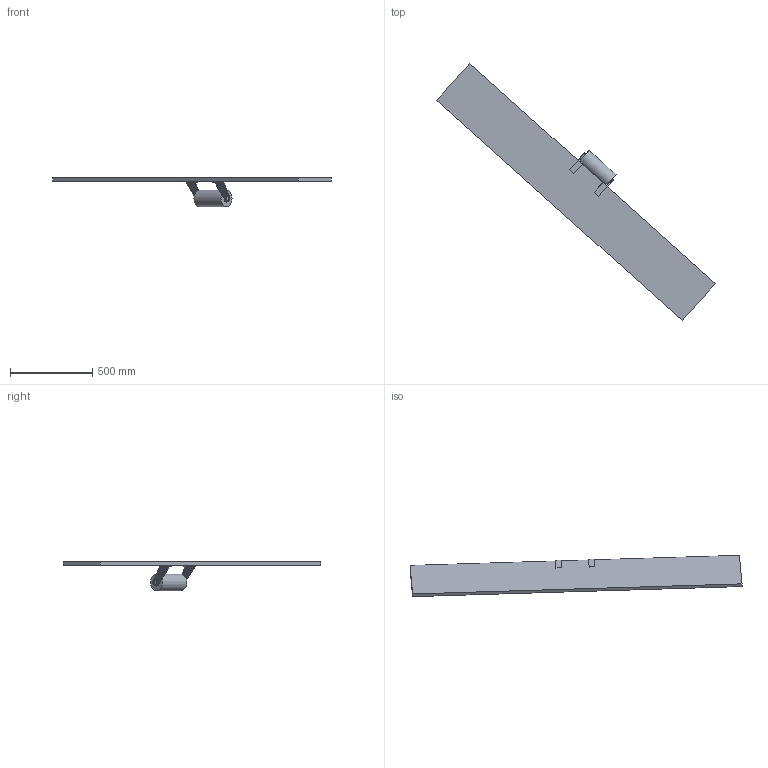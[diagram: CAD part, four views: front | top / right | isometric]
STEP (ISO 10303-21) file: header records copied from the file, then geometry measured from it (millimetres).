
FILE_DESCRIPTION(/* description */ (''),/* implementation_level */ '2;1');
FILE_NAME(/* name */ 'D:/Dokumenty/3D/Luke''s 3D/Projects/Hexagonal paper towel holder/STEP/Hexagonal paper towel holder.step',/* time_stamp */ '2022-05-27T21:43:22+02:00',/* author */ (''),/* organization */ (''),/* preprocessor_version */ 'ST-DEVELOPER v19',/* originating_system */ 'Autodesk Translation Framework v11.7.0.108',/* authorisation */ '');
FILE_SCHEMA (('AUTOMOTIVE_DESIGN { 1 0 10303 214 3 1 1 }'));
Products named in the file (7): Paper towel holder; Side w screws; Insert; Side w larger pads; Roll; Side w shelf hanger; Shelf
Assembly tree (6 placements, depth 2):
  Paper towel holder
    Side w screws
    Insert
    Side w larger pads
    Roll
    Side w shelf hanger
    Shelf
Bounding box: 1687.7 x 1560.43 x 178.5 mm (x, y, z)
Volume: 13640254.7 mm3; surface area: 1594809.8 mm2
Topology: 10 solids, 10 shells, 2032 faces, 6074 edges, 4042 vertices
Faces by surface type: plane 1882, bspline 136, cylinder 14
Full cylindrical faces by diameter (mm): 40 x8, 45 x1, 100 x1
Entity records: 68780 total; most frequent: CARTESIAN_POINT 13897, ORIENTED_EDGE 12148, DIRECTION 9712, EDGE_CURVE 6074, LINE 5726, VECTOR 5726, VERTEX_POINT 4042, EDGE_LOOP 2614
